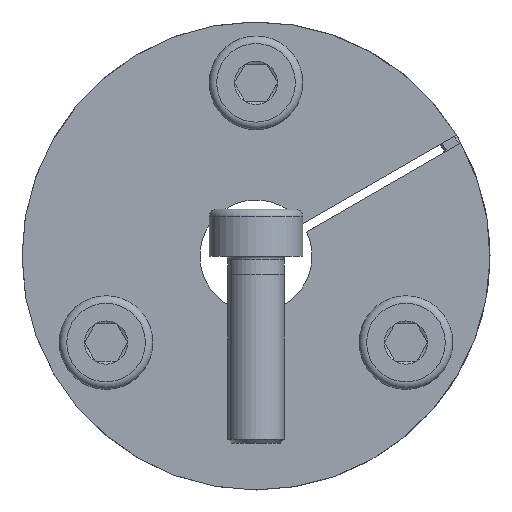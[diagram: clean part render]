
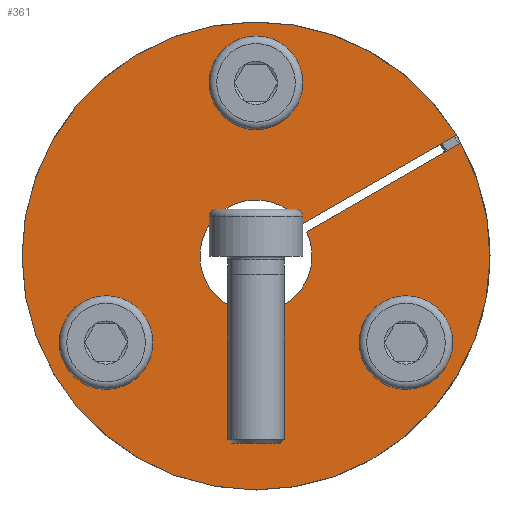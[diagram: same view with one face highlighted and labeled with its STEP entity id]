
A CAD part, front view. The second image highlights one B-rep face of the part: STEP entity #361.
In plain terms, the highlighted planar face has unit normal (0, -1, 0).
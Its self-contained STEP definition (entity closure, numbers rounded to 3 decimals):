
#361 = ADVANCED_FACE( '', ( #576, #577, #578, #579 ), #580, .F. );
#576 = FACE_BOUND( '', #696, .T. );
#577 = FACE_BOUND( '', #697, .T. );
#578 = FACE_BOUND( '', #698, .T. );
#579 = FACE_OUTER_BOUND( '', #699, .T. );
#580 = PLANE( '', #700 );
#696 = EDGE_LOOP( '', ( #925 ) );
#697 = EDGE_LOOP( '', ( #926 ) );
#698 = EDGE_LOOP( '', ( #927 ) );
#699 = EDGE_LOOP( '', ( #928, #929, #930, #931 ) );
#700 = AXIS2_PLACEMENT_3D( '', #932, #933, #934 );
#925 = ORIENTED_EDGE( '', *, *, #1149, .T. );
#926 = ORIENTED_EDGE( '', *, *, #1150, .T. );
#927 = ORIENTED_EDGE( '', *, *, #1143, .T. );
#928 = ORIENTED_EDGE( '', *, *, #1138, .T. );
#929 = ORIENTED_EDGE( '', *, *, #1144, .T. );
#930 = ORIENTED_EDGE( '', *, *, #1115, .T. );
#931 = ORIENTED_EDGE( '', *, *, #1106, .F. );
#932 = CARTESIAN_POINT( '', ( 0., 0., 12.5 ) );
#933 = DIRECTION( '', ( 0., 1., 0. ) );
#934 = DIRECTION( '', ( 0., 0., 1. ) );
#1106 = EDGE_CURVE( '', #1222, #1218, #1224, .T. );
#1115 = EDGE_CURVE( '', #1241, #1218, #1242, .T. );
#1138 = EDGE_CURVE( '', #1222, #1277, #1279, .T. );
#1143 = EDGE_CURVE( '', #1285, #1285, #1286, .T. );
#1144 = EDGE_CURVE( '', #1277, #1241, #1287, .T. );
#1149 = EDGE_CURVE( '', #1295, #1295, #1296, .T. );
#1150 = EDGE_CURVE( '', #1297, #1297, #1298, .T. );
#1218 = VERTEX_POINT( '', #1305 );
#1222 = VERTEX_POINT( '', #1310 );
#1224 = CIRCLE( '', #1313, 3. );
#1241 = VERTEX_POINT( '', #1338 );
#1242 = LINE( '', #1339, #1340 );
#1277 = VERTEX_POINT( '', #1404 );
#1279 = LINE( '', #1407, #1408 );
#1285 = VERTEX_POINT( '', #1414 );
#1286 = CIRCLE( '', #1415, 1.5 );
#1287 = CIRCLE( '', #1416, 12.5 );
#1295 = VERTEX_POINT( '', #1424 );
#1296 = CIRCLE( '', #1425, 1.5 );
#1297 = VERTEX_POINT( '', #1426 );
#1298 = CIRCLE( '', #1427, 1.5 );
#1305 = CARTESIAN_POINT( '', ( 2.714, 0., 1.278 ) );
#1310 = CARTESIAN_POINT( '', ( 2.464, 0., 1.711 ) );
#1313 = AXIS2_PLACEMENT_3D( '', #1438, #1439, #1440 );
#1338 = CARTESIAN_POINT( '', ( 10.948, 0., 6.032 ) );
#1339 = CARTESIAN_POINT( '', ( 10.95, 0., 6.033 ) );
#1340 = VECTOR( '', #1455, 1000. );
#1404 = CARTESIAN_POINT( '', ( 10.698, 0., 6.465 ) );
#1407 = CARTESIAN_POINT( '', ( 2.464, 0., 1.711 ) );
#1408 = VECTOR( '', #1480, 1000. );
#1414 = CARTESIAN_POINT( '', ( -8.761, 0., -3.326 ) );
#1415 = AXIS2_PLACEMENT_3D( '', #1493, #1494, #1495 );
#1416 = AXIS2_PLACEMENT_3D( '', #1496, #1497, #1498 );
#1424 = CARTESIAN_POINT( '', ( 1.5, 0., 9.25 ) );
#1425 = AXIS2_PLACEMENT_3D( '', #1511, #1512, #1513 );
#1426 = CARTESIAN_POINT( '', ( 7.261, 0., -5.924 ) );
#1427 = AXIS2_PLACEMENT_3D( '', #1514, #1515, #1516 );
#1438 = CARTESIAN_POINT( '', ( 0., 0., 0. ) );
#1439 = DIRECTION( '', ( 0., -1., 0. ) );
#1440 = DIRECTION( '', ( 0., 0., -1. ) );
#1455 = DIRECTION( '', ( -0.866, 0., -0.5 ) );
#1480 = DIRECTION( '', ( 0.866, 0., 0.5 ) );
#1493 = CARTESIAN_POINT( '', ( -8.011, 0., -4.625 ) );
#1494 = DIRECTION( '', ( 0., 1., 0. ) );
#1495 = DIRECTION( '', ( -0.5, 0., 0.866 ) );
#1496 = CARTESIAN_POINT( '', ( 0., 0., 0. ) );
#1497 = DIRECTION( '', ( 0., -1., 0. ) );
#1498 = DIRECTION( '', ( 0., 0., -1. ) );
#1511 = CARTESIAN_POINT( '', ( 0., 0., 9.25 ) );
#1512 = DIRECTION( '', ( 0., 1., 0. ) );
#1513 = DIRECTION( '', ( 1., 0., 0. ) );
#1514 = CARTESIAN_POINT( '', ( 8.011, 0., -4.625 ) );
#1515 = DIRECTION( '', ( 0., 1., 0. ) );
#1516 = DIRECTION( '', ( -0.5, 0., -0.866 ) );
